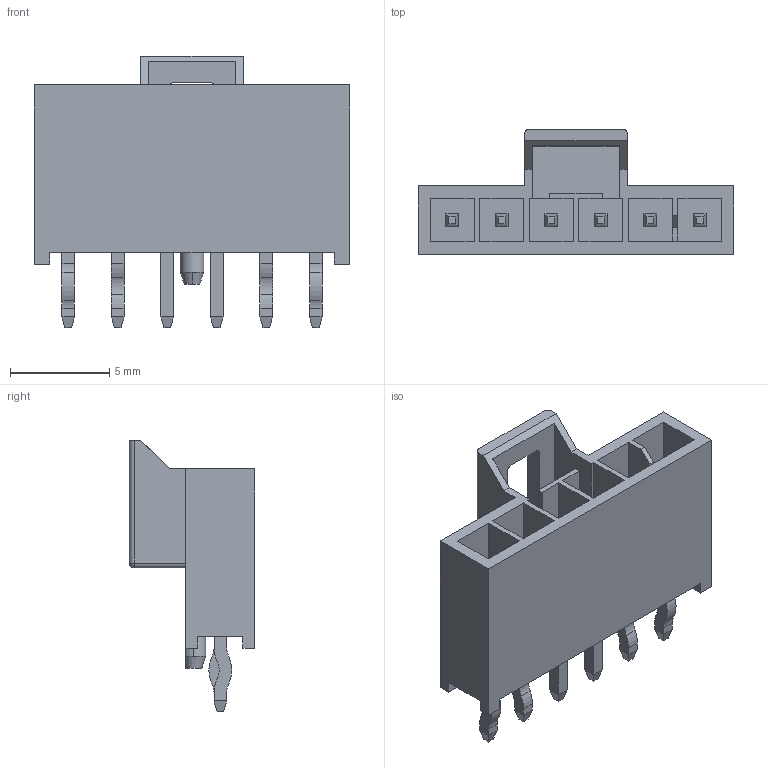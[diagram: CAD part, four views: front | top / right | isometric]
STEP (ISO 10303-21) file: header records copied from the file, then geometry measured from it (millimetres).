
FILE_DESCRIPTION (( 'STEP AP203' ), '1' );
FILE_NAME ('GT-A2513WVD-106BMT02.STEP', '2026-06-18T09:13:02', ( '' ), ( '' ), 'SwSTEP 2.0', 'SolidWorks 2020', '' );
FILE_SCHEMA (( 'CONFIG_CONTROL_DESIGN' ));
Length unit declared in the file: millimetre
Products named in the file (1): GT-A2513WVD-106BMT02
Bounding box: 15.94 x 6.34 x 13.71 mm (x, y, z)
Volume: 336.2 mm3; surface area: 1000.2 mm2
Topology: 1 solids, 1 shells, 485 faces, 1296 edges, 844 vertices
Faces by surface type: plane 375, bspline 71, cylinder 35, cone 2, sphere 2
Entity records: 18389 total; most frequent: CARTESIAN_POINT 6660, ORIENTED_EDGE 2588, DIRECTION 2053, EDGE_CURVE 1294, VECTOR 1077, LINE 1077, VERTEX_POINT 844, EDGE_LOOP 520
